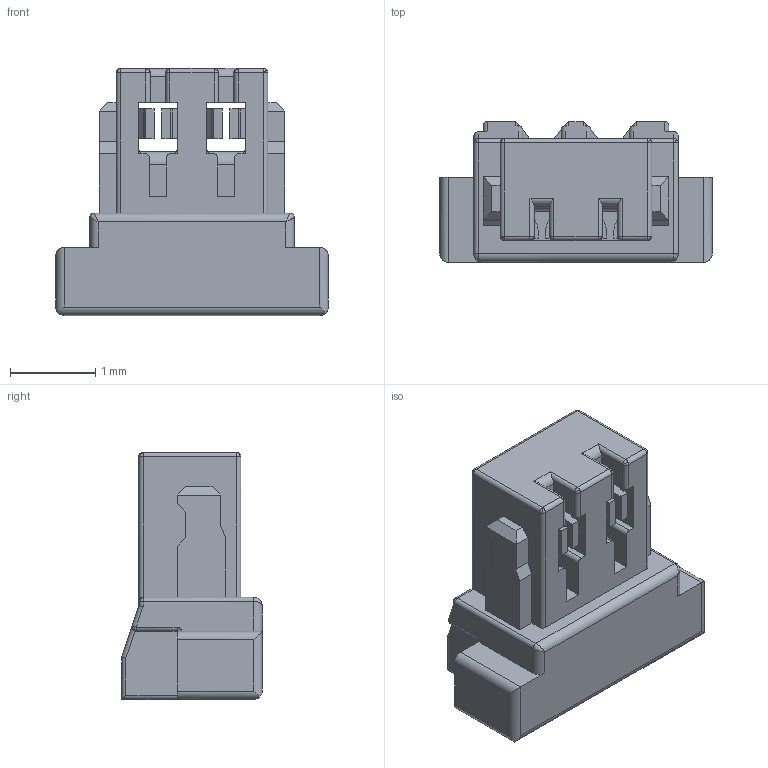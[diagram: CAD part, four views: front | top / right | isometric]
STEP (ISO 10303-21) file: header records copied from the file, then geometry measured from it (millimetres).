
FILE_DESCRIPTION((''),'2;1');
FILE_NAME('SCT0800HI-02','2023-03-21T23:07:13',('Administrator'),(''),'CREO PARAMETRIC BY PTC INC, 2018050','CREO PARAMETRIC BY PTC INC, 2018050','');
FILE_SCHEMA(('CONFIG_CONTROL_DESIGN'));
Length unit declared in the file: millimetre
Products named in the file (1): SCT0800HI-02
Bounding box: 3.2 x 1.65 x 2.9 mm (x, y, z)
Volume: 6.7 mm3; surface area: 46.8 mm2
Topology: 1 solids, 1 shells, 442 faces, 1260 edges, 776 vertices
Faces by surface type: plane 278, cylinder 136, sphere 24, bspline 3, torus 1
Entity records: 14312 total; most frequent: CARTESIAN_POINT 2824, ORIENTED_EDGE 2472, DIRECTION 2324, EDGE_CURVE 1236, VECTOR 942, LINE 942, VERTEX_POINT 776, AXIS2_PLACEMENT_3D 691
